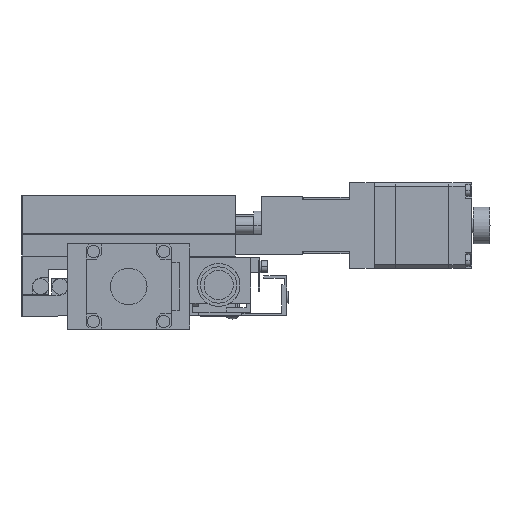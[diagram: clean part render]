
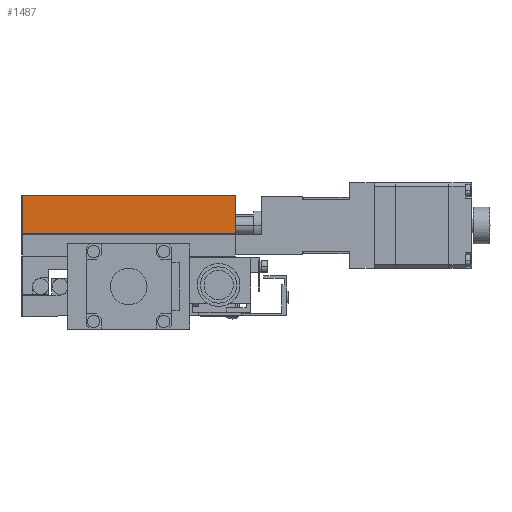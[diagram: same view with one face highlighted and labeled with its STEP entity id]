
A CAD part, left-side view. The second image highlights one B-rep face of the part: STEP entity #1487.
In plain terms, the highlighted planar face has unit normal (-1, 0, 0).
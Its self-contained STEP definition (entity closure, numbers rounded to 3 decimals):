
#1487=ADVANCED_FACE('',(#3745),#3746,.F.);
#3745=FACE_OUTER_BOUND('',#6391,.T.);
#3746=PLANE('',#6392);
#6391=EDGE_LOOP('',(#14211,#14212,#14213,#14214));
#6392=AXIS2_PLACEMENT_3D('',#14215,#14216,#14217);
#14211=ORIENTED_EDGE('',*,*,#19283,.T.);
#14212=ORIENTED_EDGE('',*,*,#19334,.F.);
#14213=ORIENTED_EDGE('',*,*,#19335,.F.);
#14214=ORIENTED_EDGE('',*,*,#19215,.T.);
#14215=CARTESIAN_POINT('',(-35.,-35.,40.0));
#14216=DIRECTION('',(1.0,0.,0.));
#14217=DIRECTION('',(0.,0.,-1.0));
#19215=EDGE_CURVE('',#23742,#23740,#23743,.T.);
#19283=EDGE_CURVE('',#23740,#23847,#23849,.T.);
#19334=EDGE_CURVE('',#23919,#23847,#23920,.T.);
#19335=EDGE_CURVE('',#23742,#23919,#23921,.T.);
#23740=VERTEX_POINT('',#30260);
#23742=VERTEX_POINT('',#30263);
#23743=LINE('',#30264,#30265);
#23847=VERTEX_POINT('',#30413);
#23849=LINE('',#30416,#30417);
#23919=VERTEX_POINT('',#30515);
#23920=LINE('',#30516,#30517);
#23921=LINE('',#30518,#30519);
#30260=CARTESIAN_POINT('',(-35.,35.,40.0));
#30263=CARTESIAN_POINT('',(-35.,-35.,40.0));
#30264=CARTESIAN_POINT('',(-35.,-35.,40.0));
#30265=VECTOR('',#36119,1000.0);
#30413=CARTESIAN_POINT('',(-35.,35.,27.5));
#30416=CARTESIAN_POINT('',(-35.,35.,40.0));
#30417=VECTOR('',#36231,1000.0);
#30515=CARTESIAN_POINT('',(-35.,-35.,27.5));
#30516=CARTESIAN_POINT('',(-35.,-35.,27.5));
#30517=VECTOR('',#36326,1000.0);
#30518=CARTESIAN_POINT('',(-35.,-35.,40.0));
#30519=VECTOR('',#36327,1000.0);
#36119=DIRECTION('',(0.,1.0,0.0));
#36231=DIRECTION('',(0.,0.,-1.0));
#36326=DIRECTION('',(0.,1.0,0.0));
#36327=DIRECTION('',(0.,0.,-1.0));
